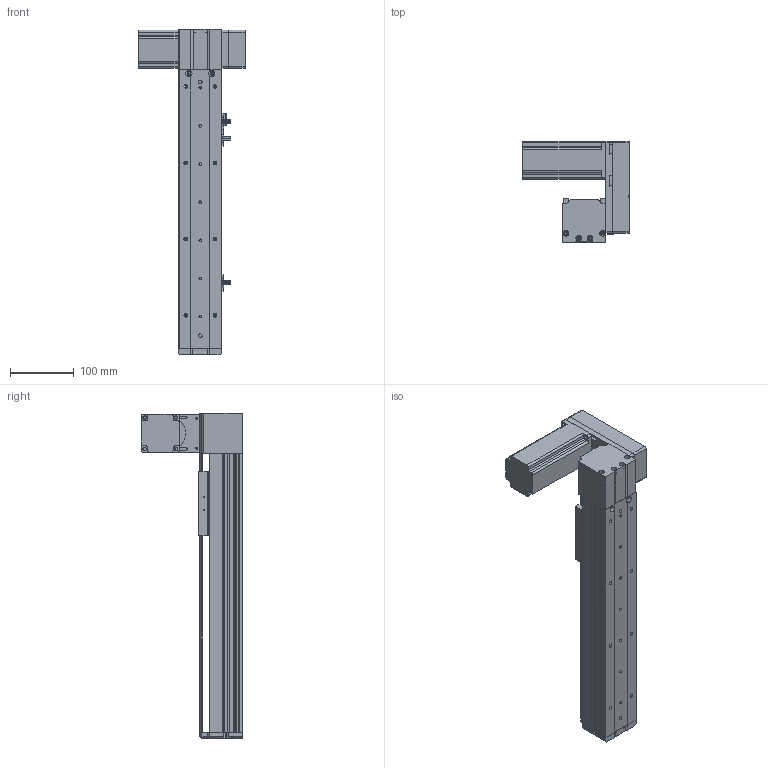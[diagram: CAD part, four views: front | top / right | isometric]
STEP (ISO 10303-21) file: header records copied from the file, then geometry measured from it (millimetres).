
FILE_DESCRIPTION (( 'STEP AP214' ), '1' );
FILE_NAME ('KSD68BS-S250-MLU-CM.STEP', '2019-11-05T03:49:43', ( '微软用户' ), ( '微软中国' ), 'SwSTEP 2.0', 'SolidWorks 2014', '' );
FILE_SCHEMA (( 'AUTOMOTIVE_DESIGN' ));
Length unit declared in the file: millimetre
Products named in the file (11): KSD68BS-S250-MLU-CM; 悵誘欶奻狟殏; 68宽马达安装板连板上折同步带; 68宽单导轨半封闭同步带主动轮座左; 68单导轨同步带半封闭端板; KSD68BS 250俴最裔啣圉猾敕; 覜茼え68遵圉猾敕; KSD68BS半封闭同步带传动导轨座; U倰嫖萇EEㄜSX672; 台达ECMA－C20604AS伺服电机（400W); KSD68BS 250俴最菁啣圉猾敕
Assembly tree (12 placements, depth 2):
  KSD68BS-S250-MLU-CM
    KSD68BS 250俴最菁啣圉猾敕
    台达ECMA－C20604AS伺服电机（400W)
    U倰嫖萇EEㄜSX672  x3
    KSD68BS半封闭同步带传动导轨座
    覜茼え68遵圉猾敕
    KSD68BS 250俴最裔啣圉猾敕
    68单导轨同步带半封闭端板
    68宽单导轨半封闭同步带主动轮座左
    68宽马达安装板连板上折同步带
    悵誘欶奻狟殏
Bounding box: 167.2 x 159.5 x 512 mm (x, y, z)
Volume: 1424647.7 mm3; surface area: 432452.6 mm2
Topology: 13 solids, 13 shells, 1202 faces, 3378 edges, 2190 vertices
Faces by surface type: cylinder 564, plane 555, cone 83
Entity records: 41270 total; most frequent: CARTESIAN_POINT 7314, DIRECTION 5588, ORIENTED_EDGE 5508, EDGE_CURVE 2754, AXIS2_PLACEMENT_3D 1992, VERTEX_POINT 1814, LINE 1604, VECTOR 1604
